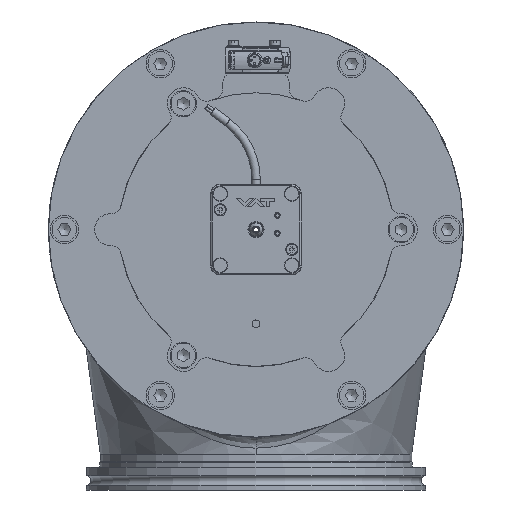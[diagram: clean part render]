
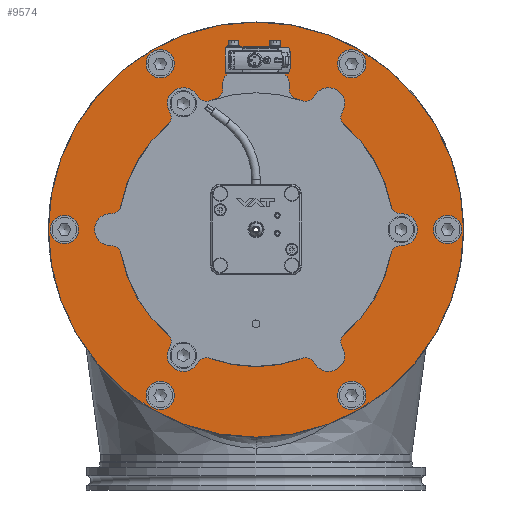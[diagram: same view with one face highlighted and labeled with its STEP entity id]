
A CAD part, left-side view. The second image highlights one B-rep face of the part: STEP entity #9574.
In plain terms, the highlighted planar face has unit normal (-1, 0, 0).
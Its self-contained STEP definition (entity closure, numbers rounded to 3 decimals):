
#9574=ADVANCED_FACE('BCT_REF_39971',(#12608,#12609,#12610,#12611,#12612,
#12613,#12614,#12615,#12616,#12617,#12618),#10806,.T.);
#10806=PLANE('',#30256);
#11521=CIRCLE('',#30245,3.4);
#11522=CIRCLE('',#30246,3.4);
#11523=CIRCLE('',#30247,3.4);
#11524=CIRCLE('',#30248,7.5);
#11525=CIRCLE('',#30249,7.5);
#11526=CIRCLE('',#30250,7.5);
#11527=CIRCLE('',#30251,7.5);
#11528=CIRCLE('',#30252,7.5);
#11529=CIRCLE('',#30253,7.5);
#11530=CIRCLE('',#30254,72.645);
#11531=CIRCLE('',#30255,110.);
#12608=FACE_BOUND('',#13614,.T.);
#12609=FACE_BOUND('',#13615,.T.);
#12610=FACE_BOUND('',#13616,.T.);
#12611=FACE_BOUND('',#13617,.T.);
#12612=FACE_BOUND('',#13618,.T.);
#12613=FACE_BOUND('',#13619,.T.);
#12614=FACE_BOUND('',#13620,.T.);
#12615=FACE_BOUND('',#13621,.T.);
#12616=FACE_BOUND('',#13622,.T.);
#12617=FACE_BOUND('',#13623,.T.);
#12618=FACE_BOUND('',#13624,.T.);
#13614=EDGE_LOOP('',(#16484));
#13615=EDGE_LOOP('',(#16485));
#13616=EDGE_LOOP('',(#16486));
#13617=EDGE_LOOP('',(#16487));
#13618=EDGE_LOOP('',(#16488));
#13619=EDGE_LOOP('',(#16489));
#13620=EDGE_LOOP('',(#16490));
#13621=EDGE_LOOP('',(#16491));
#13622=EDGE_LOOP('',(#16492));
#13623=EDGE_LOOP('',(#16493));
#13624=EDGE_LOOP('',(#16494));
#16484=ORIENTED_EDGE('',*,*,#24090,.T.);
#16485=ORIENTED_EDGE('',*,*,#24091,.T.);
#16486=ORIENTED_EDGE('',*,*,#24092,.T.);
#16487=ORIENTED_EDGE('',*,*,#24093,.T.);
#16488=ORIENTED_EDGE('',*,*,#24094,.T.);
#16489=ORIENTED_EDGE('',*,*,#24095,.T.);
#16490=ORIENTED_EDGE('',*,*,#24096,.T.);
#16491=ORIENTED_EDGE('',*,*,#24097,.T.);
#16492=ORIENTED_EDGE('',*,*,#24098,.T.);
#16493=ORIENTED_EDGE('',*,*,#24099,.T.);
#16494=ORIENTED_EDGE('',*,*,#24100,.T.);
#21724=VERTEX_POINT('',#41087);
#21725=VERTEX_POINT('',#41089);
#21726=VERTEX_POINT('',#41091);
#21727=VERTEX_POINT('',#41093);
#21728=VERTEX_POINT('',#41095);
#21729=VERTEX_POINT('',#41097);
#21730=VERTEX_POINT('',#41099);
#21731=VERTEX_POINT('',#41101);
#21732=VERTEX_POINT('',#41103);
#21733=VERTEX_POINT('',#41105);
#21734=VERTEX_POINT('',#41107);
#24090=EDGE_CURVE('',#21724,#21724,#11521,.T.);
#24091=EDGE_CURVE('',#21725,#21725,#11522,.T.);
#24092=EDGE_CURVE('',#21726,#21726,#11523,.T.);
#24093=EDGE_CURVE('',#21727,#21727,#11524,.T.);
#24094=EDGE_CURVE('',#21728,#21728,#11525,.T.);
#24095=EDGE_CURVE('BCT_REF_49088',#21729,#21729,#11526,.T.);
#24096=EDGE_CURVE('',#21730,#21730,#11527,.T.);
#24097=EDGE_CURVE('',#21731,#21731,#11528,.T.);
#24098=EDGE_CURVE('BCT_REF_49088',#21732,#21732,#11529,.T.);
#24099=EDGE_CURVE('',#21733,#21733,#11530,.T.);
#24100=EDGE_CURVE('',#21734,#21734,#11531,.T.);
#30245=AXIS2_PLACEMENT_3D('',#41086,#33780,#33781);
#30246=AXIS2_PLACEMENT_3D('',#41088,#33782,#33783);
#30247=AXIS2_PLACEMENT_3D('',#41090,#33784,#33785);
#30248=AXIS2_PLACEMENT_3D('',#41092,#33786,#33787);
#30249=AXIS2_PLACEMENT_3D('',#41094,#33788,#33789);
#30250=AXIS2_PLACEMENT_3D('',#41096,#33790,#33791);
#30251=AXIS2_PLACEMENT_3D('',#41098,#33792,#33793);
#30252=AXIS2_PLACEMENT_3D('',#41100,#33794,#33795);
#30253=AXIS2_PLACEMENT_3D('',#41102,#33796,#33797);
#30254=AXIS2_PLACEMENT_3D('',#41104,#33798,#33799);
#30255=AXIS2_PLACEMENT_3D('',#41106,#33800,#33801);
#30256=AXIS2_PLACEMENT_3D('',#41108,#33802,#33803);
#33780=DIRECTION('',(1.,0.,0.));
#33781=DIRECTION('',(0.,-0.866,0.5));
#33782=DIRECTION('',(1.,0.,0.));
#33783=DIRECTION('',(0.,0.866,0.5));
#33784=DIRECTION('',(1.,0.,0.));
#33785=DIRECTION('',(0.,0.,-1.));
#33786=DIRECTION('',(1.,0.,0.));
#33787=DIRECTION('',(0.,-0.866,-0.5));
#33788=DIRECTION('',(1.,0.,0.));
#33789=DIRECTION('',(0.,-0.866,0.5));
#33790=DIRECTION('',(1.,0.,0.));
#33791=DIRECTION('',(0.,0.,1.));
#33792=DIRECTION('',(1.,0.,0.));
#33793=DIRECTION('',(0.,0.866,0.5));
#33794=DIRECTION('',(1.,0.,0.));
#33795=DIRECTION('',(0.,0.866,-0.5));
#33796=DIRECTION('',(1.,0.,0.));
#33797=DIRECTION('',(0.,0.,-1.));
#33798=DIRECTION('',(1.,0.,0.));
#33799=DIRECTION('',(0.,0.,1.));
#33800=DIRECTION('',(-1.,0.,0.));
#33801=DIRECTION('',(0.,0.,1.));
#33802=DIRECTION('',(-1.,0.,0.));
#33803=DIRECTION('',(0.,0.,1.));
#41086=CARTESIAN_POINT('',(0.,-66.684,-38.5));
#41087=CARTESIAN_POINT('',(0.,-69.628,-36.8));
#41088=CARTESIAN_POINT('',(0.,0.,77.));
#41089=CARTESIAN_POINT('',(0.,2.944,78.7));
#41090=CARTESIAN_POINT('',(0.,66.684,-38.5));
#41091=CARTESIAN_POINT('',(0.,66.684,-41.9));
#41092=CARTESIAN_POINT('',(0.,87.902,-50.75));
#41093=CARTESIAN_POINT('',(0.,81.406,-54.5));
#41094=CARTESIAN_POINT('',(0.,0.,-101.5));
#41095=CARTESIAN_POINT('',(0.,-6.495,-97.75));
#41096=CARTESIAN_POINT('',(0.,-87.902,-50.75));
#41097=CARTESIAN_POINT('',(0.,-87.902,-43.25));
#41098=CARTESIAN_POINT('',(0.,-87.902,50.75));
#41099=CARTESIAN_POINT('',(0.,-81.406,54.5));
#41100=CARTESIAN_POINT('',(0.,0.,101.5));
#41101=CARTESIAN_POINT('',(0.,6.495,97.75));
#41102=CARTESIAN_POINT('',(0.,87.902,50.75));
#41103=CARTESIAN_POINT('',(0.,87.902,43.25));
#41104=CARTESIAN_POINT('',(0.,0.,0.));
#41105=CARTESIAN_POINT('',(0.,0.,72.645));
#41106=CARTESIAN_POINT('',(0.,0.,0.));
#41107=CARTESIAN_POINT('',(0.,0.,110.));
#41108=CARTESIAN_POINT('',(0.,72.145,0.));
